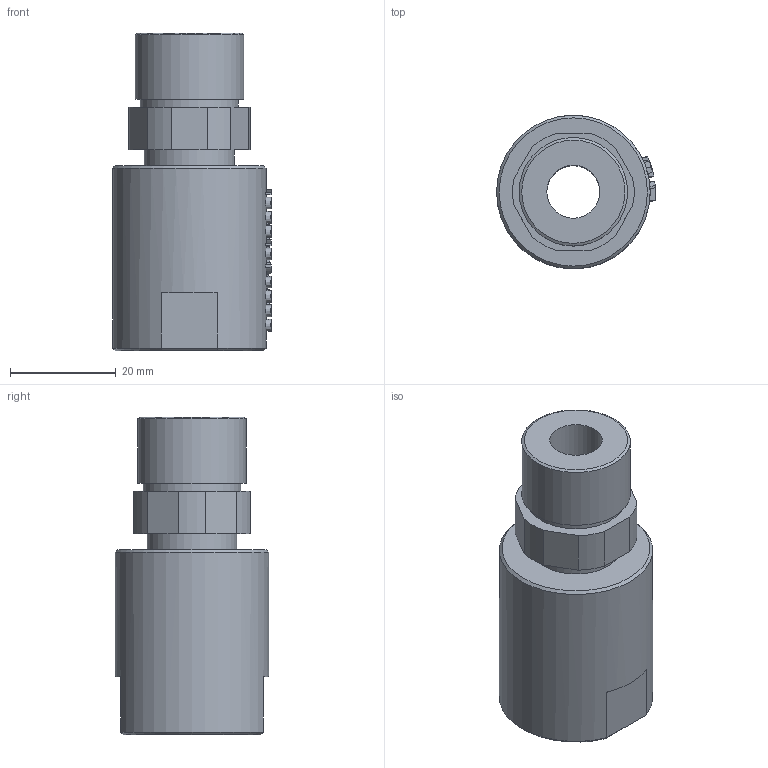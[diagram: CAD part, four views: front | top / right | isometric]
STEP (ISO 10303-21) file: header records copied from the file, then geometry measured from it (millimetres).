
FILE_DESCRIPTION(/* description */ (''),/* implementation_level */ '2;1');
FILE_NAME(/* name */ 'HY0104.stp',/* time_stamp */ '2024-07-03T14:48:13+08:00',/* author */ (''),/* organization */ (''),/* preprocessor_version */ 'ST-DEVELOPER v16.7',/* originating_system */ 'SIEMENS PLM Software NX 12.0',/* authorisation */ '');
FILE_SCHEMA (('AUTOMOTIVE_DESIGN { 1 0 10303 214 3 1 1 1 }'));
Length unit declared in the file: millimetre
Products named in the file (1): 8613389012830v99
Bounding box: 30 x 29 x 60 mm (x, y, z)
Volume: 23944.3 mm3; surface area: 8939.2 mm2
Topology: 1 solids, 1 shells, 345 faces, 893 edges, 593 vertices
Faces by surface type: extrusion 154, plane 136, bspline 27, cylinder 23, cone 5
Full cylindrical faces by diameter (mm): 10 x1, 17 x1, 18.5 x1, 19.5 x1, 20.5 x1, 29 x1
Entity records: 15887 total; most frequent: CARTESIAN_POINT 8211, ORIENTED_EDGE 1748, DIRECTION 1078, EDGE_CURVE 874, VERTEX_POINT 592, VECTOR 550, B_SPLINE_CURVE_WITH_KNOTS 533, EDGE_LOOP 408
